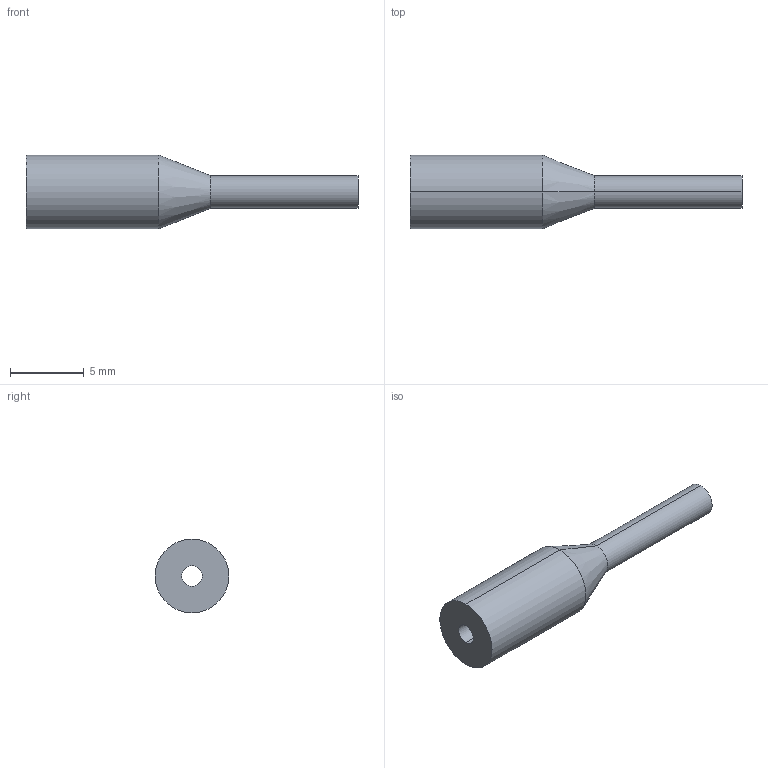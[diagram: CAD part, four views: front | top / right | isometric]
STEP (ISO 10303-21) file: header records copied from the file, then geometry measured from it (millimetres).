
FILE_DESCRIPTION (( 'STEP AP203' ), '1' );
FILE_NAME ('FX-AT13.STEP', '2005-09-08T04:13:08', ( '' ), ( '' ), 'SwSTEP 2.0', 'SolidWorks 2004073', '' );
FILE_SCHEMA (( 'CONFIG_CONTROL_DESIGN' ));
Length unit declared in the file: millimetre
Products named in the file (1): FX-AT13
Bounding box: 22.5 x 5 x 5 mm (x, y, z)
Volume: 217.5 mm3; surface area: 372.4 mm2
Topology: 1 solids, 1 shells, 10 faces, 20 edges, 12 vertices
Faces by surface type: cylinder 6, cone 2, plane 2
Entity records: 345 total; most frequent: DIRECTION 54, CARTESIAN_POINT 43, ORIENTED_EDGE 40, AXIS2_PLACEMENT_3D 23, EDGE_CURVE 20, EDGE_LOOP 12, VERTEX_POINT 12, CIRCLE 12
